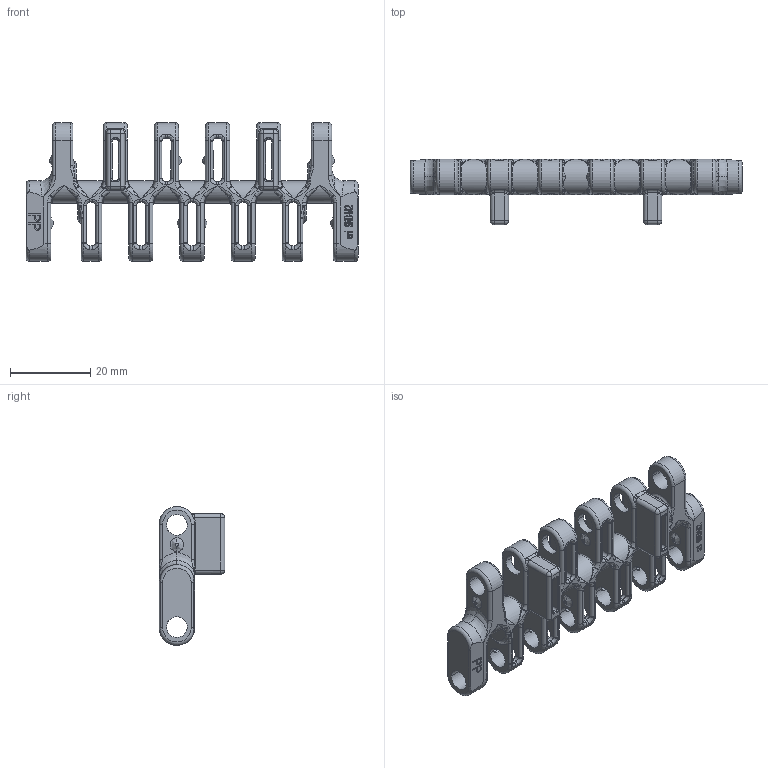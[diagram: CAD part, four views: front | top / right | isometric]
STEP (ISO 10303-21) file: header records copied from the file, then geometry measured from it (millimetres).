
FILE_DESCRIPTION((''),'2;1');
FILE_NAME('P664','2009-08-27T',('mth'),(''),'PRO/ENGINEER BY PARAMETRIC TECHNOLOGY CORPORATION, 2008490','PRO/ENGINEER BY PARAMETRIC TECHNOLOGY CORPORATION, 2008490','');
FILE_SCHEMA(('AUTOMOTIVE_DESIGN { 1 0 10303 214 1 1 1 1 }'));
Products named in the file (1): P664
Bounding box: 82.54 x 16.3 x 34.5 mm (x, y, z)
Volume: 9817.8 mm3; surface area: 9351.6 mm2
Topology: 1 solids, 1 shells, 1307 faces, 3283 edges, 1968 vertices
Faces by surface type: plane 452, cylinder 379, bspline 354, torus 110, sphere 12
Entity records: 64981 total; most frequent: CARTESIAN_POINT 36109, ORIENTED_EDGE 6566, DIRECTION 5297, EDGE_CURVE 3283, VERTEX_POINT 1968, AXIS2_PLACEMENT_3D 1865, VECTOR 1567, LINE 1567
